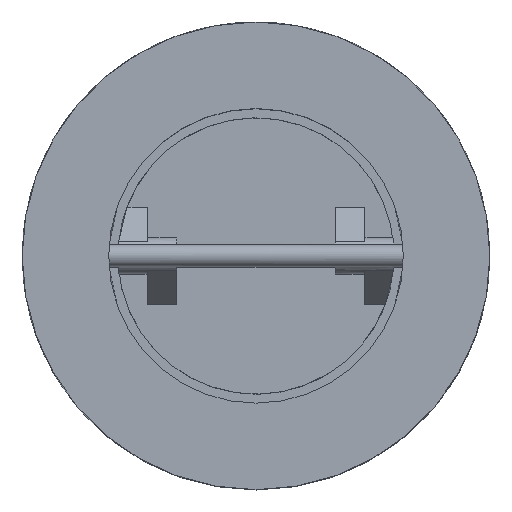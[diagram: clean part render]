
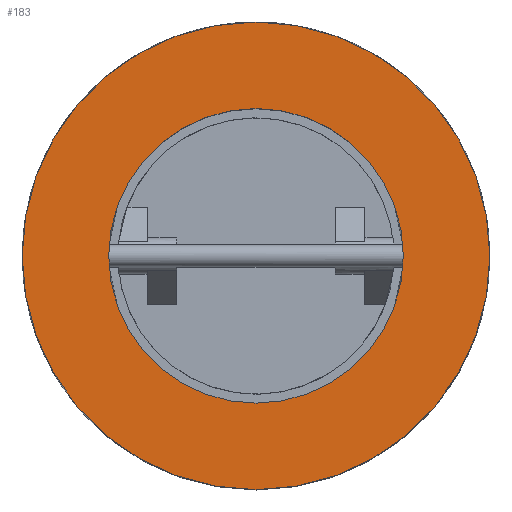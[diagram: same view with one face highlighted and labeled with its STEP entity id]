
A CAD part, top view. The second image highlights one B-rep face of the part: STEP entity #183.
In plain terms, the highlighted planar face has unit normal (0, 0, 1).
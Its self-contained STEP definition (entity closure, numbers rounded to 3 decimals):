
#183=ADVANCED_FACE('',(#822,#824),#826,.T.);
#822=FACE_BOUND('',#823,.T.);
#823=EDGE_LOOP('',(#1339));
#824=FACE_BOUND('',#825,.T.);
#825=EDGE_LOOP('',(#1340));
#826=PLANE('',#827);
#827=AXIS2_PLACEMENT_3D('',#828,#829,#830);
#828=CARTESIAN_POINT('',(0.,0.,46.));
#829=DIRECTION('',(0.,0.,1.));
#830=DIRECTION('',(0.,-1.,0.));
#1339=ORIENTED_EDGE('',*,*,#1681,.T.);
#1340=ORIENTED_EDGE('',*,*,#1691,.F.);
#1681=EDGE_CURVE('',#1899,#1899,#1900,.T.);
#1691=EDGE_CURVE('',#1919,#1919,#1920,.T.);
#1899=VERTEX_POINT('',#2306);
#1900=CIRCLE('',#2307,63.5);
#1919=VERTEX_POINT('',#2352);
#1920=CIRCLE('',#2353,40.);
#2306=CARTESIAN_POINT('',(0.,-63.5,46.));
#2307=AXIS2_PLACEMENT_3D('',#2308,#2309,#2310);
#2308=CARTESIAN_POINT('',(0.,0.,46.));
#2309=DIRECTION('',(0.,0.,1.));
#2310=DIRECTION('',(0.,-1.,0.));
#2352=CARTESIAN_POINT('',(0.,-40.,46.));
#2353=AXIS2_PLACEMENT_3D('',#2354,#2355,#2356);
#2354=CARTESIAN_POINT('',(0.,0.,46.));
#2355=DIRECTION('',(0.,0.,1.));
#2356=DIRECTION('',(0.,-1.,0.));
